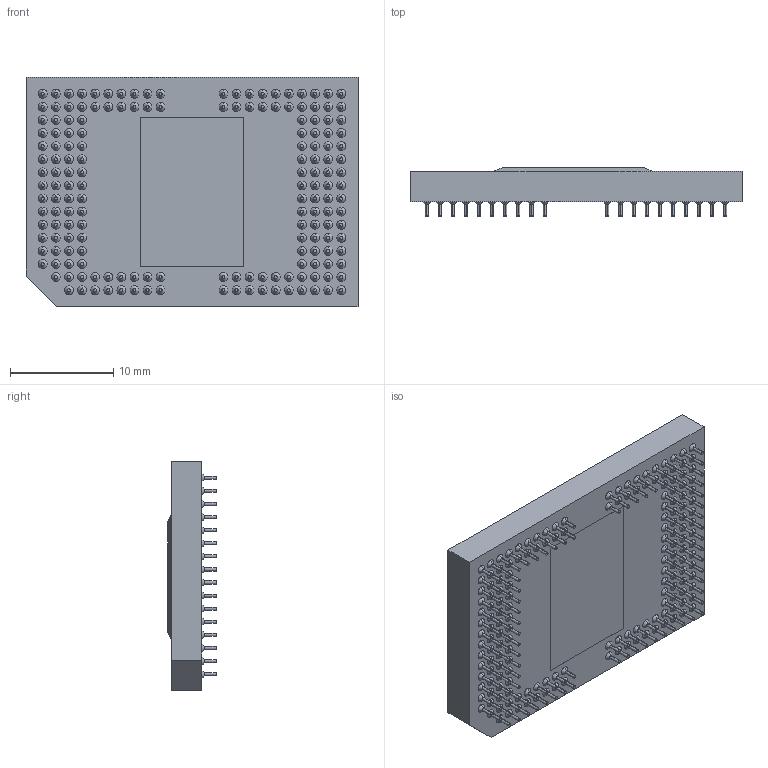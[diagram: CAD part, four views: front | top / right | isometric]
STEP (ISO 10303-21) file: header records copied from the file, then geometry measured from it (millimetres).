
FILE_DESCRIPTION (( 'STEP AP214' ), '1' );
FILE_NAME ('2519197-FXM-s460-48-subLVDS-DMD.STEP', '2025-08-21T16:36:37', ( '' ), ( '' ), 'SwSTEP 2.0', 'SolidWorks 2024', '' );
FILE_SCHEMA (( 'AUTOMOTIVE_DESIGN' ));
Length unit declared in the file: millimetre
Products named in the file (4): s460-DMD-SymbolizePad; 2519197-FXM-s460-48-subLVDS-DMD; s460-48-subLVDS-Window; s460-48-subLVDS-Ceramic
Assembly tree (3 placements, depth 2):
  2519197-FXM-s460-48-subLVDS-DMD
    s460-48-subLVDS-Ceramic
    s460-48-subLVDS-Window
    s460-DMD-SymbolizePad
Bounding box: 32.2 x 4.69 x 22.3 mm (x, y, z)
Volume: 2100.7 mm3; surface area: 2804.1 mm2
Topology: 3 solids, 3 shells, 944 faces, 1910 edges, 1154 vertices
Faces by surface type: cylinder 360, cone 346, plane 238
Entity records: 24797 total; most frequent: DIRECTION 4876, CARTESIAN_POINT 4014, ORIENTED_EDGE 3820, AXIS2_PLACEMENT_3D 2016, EDGE_CURVE 1910, VERTEX_POINT 1154, EDGE_LOOP 1126, CIRCLE 1066
